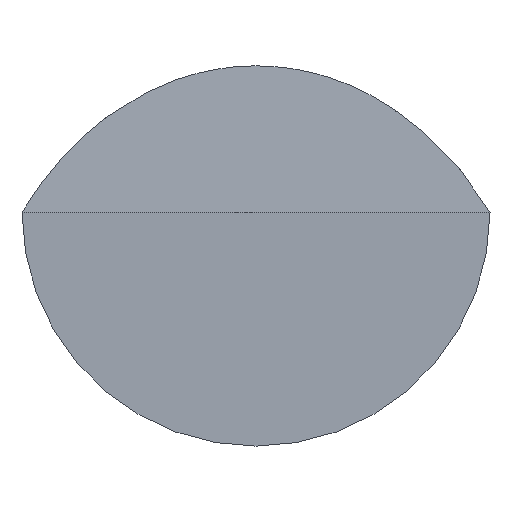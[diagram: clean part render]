
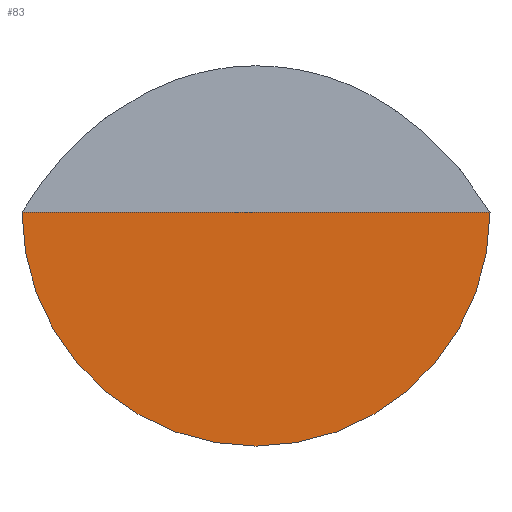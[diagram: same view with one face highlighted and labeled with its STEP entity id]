
A CAD part, front view. The second image highlights one B-rep face of the part: STEP entity #83.
In plain terms, the highlighted planar face has unit normal (0, -1, 0).
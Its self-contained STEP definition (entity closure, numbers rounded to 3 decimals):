
#46=CIRCLE('',#111,20.);
#50=FACE_OUTER_BOUND('',#53,.T.);
#53=EDGE_LOOP('',(#77,#78));
#54=LINE('',#174,#56);
#56=VECTOR('',#132,10.);
#60=VERTEX_POINT('',#170);
#62=VERTEX_POINT('',#173);
#65=EDGE_CURVE('',#62,#60,#54,.T.);
#68=EDGE_CURVE('',#62,#60,#46,.T.);
#77=ORIENTED_EDGE('',*,*,#65,.T.);
#78=ORIENTED_EDGE('',*,*,#68,.F.);
#80=PLANE('',#112);
#83=ADVANCED_FACE('',(#50),#80,.T.);
#111=AXIS2_PLACEMENT_3D('',#179,#138,#139);
#112=AXIS2_PLACEMENT_3D('',#180,#140,#141);
#132=DIRECTION('',(-1.,0.,0.));
#138=DIRECTION('center_axis',(0.,1.,0.));
#139=DIRECTION('ref_axis',(1.,0.,0.));
#140=DIRECTION('center_axis',(0.,-1.,0.));
#141=DIRECTION('ref_axis',(0.,0.,-1.));
#170=CARTESIAN_POINT('',(-20.,0.,0.));
#173=CARTESIAN_POINT('',(20.,0.,0.));
#174=CARTESIAN_POINT('',(0.,0.,0.));
#179=CARTESIAN_POINT('Origin',(0.,0.,0.));
#180=CARTESIAN_POINT('Origin',(0.,0.,-20.));
